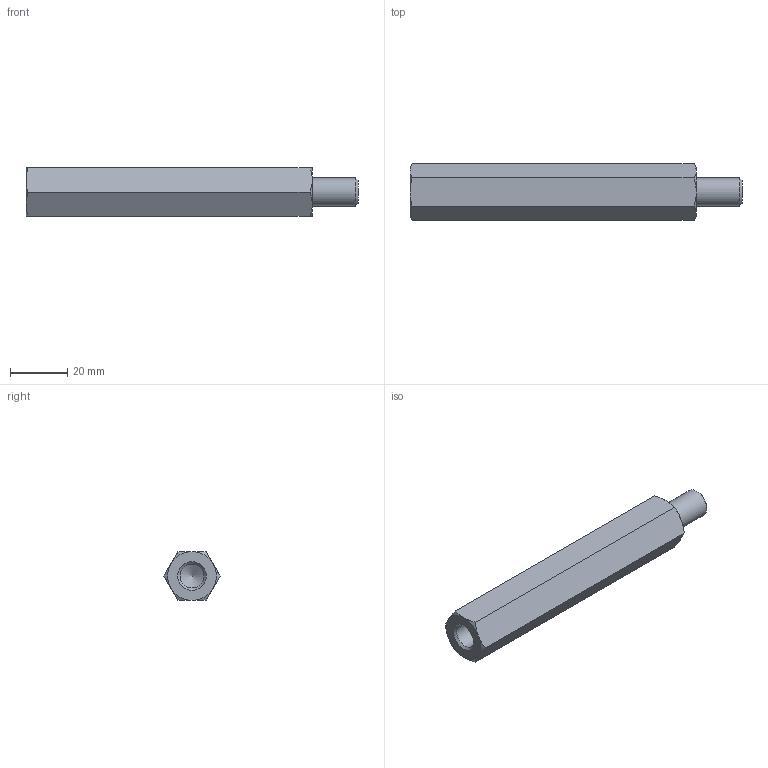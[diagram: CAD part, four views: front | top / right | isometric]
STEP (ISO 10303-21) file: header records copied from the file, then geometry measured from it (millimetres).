
FILE_DESCRIPTION( ( 'STEP AP203' ), '1' );
FILE_NAME( 'C:/Temp/Ganter_Step_05_03_2020/data/3_2/gn6220/gn6220_st/Spacer GN 6220-ST-M10-100-B.stp', '2020-03-13T05:42:54', ( 'License CC BY-ND 4.0' ), ( 'CADENAS' ), ' ', 'PARTsolutions', ' ' );
FILE_SCHEMA( ( 'CONFIG_CONTROL_DESIGN' ) );
Length unit declared in the file: millimetre
Products named in the file (1): _Spacer GN 6220-ST-M10-100-B
Bounding box: 116 x 19.63 x 17 mm (x, y, z)
Volume: 24812.2 mm3; surface area: 7514 mm2
Topology: 1 solids, 1 shells, 26 faces, 55 edges, 32 vertices
Faces by surface type: cone 15, plane 9, cylinder 2
Full cylindrical faces by diameter (mm): 8.376 x1, 10 x1
Entity records: 778 total; most frequent: CARTESIAN_POINT 242, DIRECTION 96, ORIENTED_EDGE 96, EDGE_CURVE 48, AXIS2_PLACEMENT_3D 45, EDGE_LOOP 32, VERTEX_POINT 31, FACE_OUTER_BOUND 28
